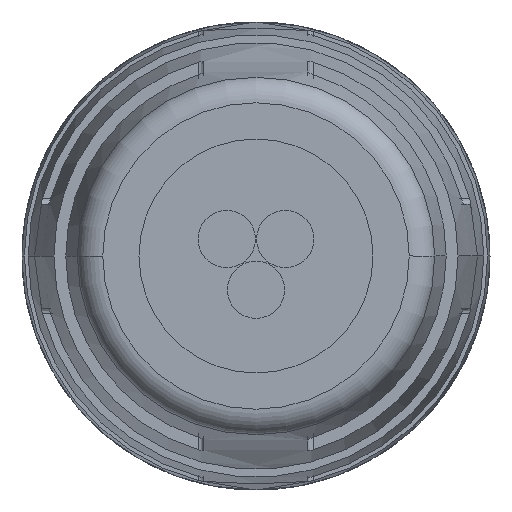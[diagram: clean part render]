
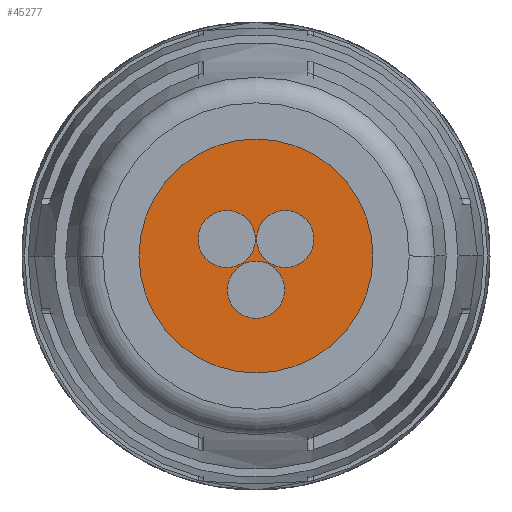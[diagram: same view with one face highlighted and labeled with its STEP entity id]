
A CAD part, left-side view. The second image highlights one B-rep face of the part: STEP entity #45277.
In plain terms, the highlighted planar face has unit normal (-1, 0, 0).
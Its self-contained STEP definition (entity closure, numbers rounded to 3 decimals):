
#14970=CARTESIAN_POINT('',(-66.6,0.,0.));
#14971=DIRECTION('',(-1.,0.,0.));
#14972=DIRECTION('',(0.,0.,1.));
#14973=AXIS2_PLACEMENT_3D('',#14970,#14971,#14972);
#14975=CARTESIAN_POINT('',(-66.6,0.,0.));
#14976=DIRECTION('',(-1.,0.,0.));
#14977=DIRECTION('',(0.,0.,-1.));
#14978=AXIS2_PLACEMENT_3D('',#14975,#14976,#14977);
#14980=CARTESIAN_POINT('',(-66.6,0.,-0.65));
#14981=DIRECTION('',(-1.,0.,0.));
#14982=DIRECTION('',(0.,1.,0.));
#14983=AXIS2_PLACEMENT_3D('',#14980,#14981,#14982);
#14985=CARTESIAN_POINT('',(-66.6,0.,-0.65));
#14986=DIRECTION('',(-1.,0.,0.));
#14987=DIRECTION('',(0.,-1.,0.));
#14988=AXIS2_PLACEMENT_3D('',#14985,#14986,#14987);
#14990=CARTESIAN_POINT('',(-66.6,0.563,0.325));
#14991=DIRECTION('',(-1.,0.,0.));
#14992=DIRECTION('',(0.,-0.5,0.866));
#14993=AXIS2_PLACEMENT_3D('',#14990,#14991,#14992);
#14995=CARTESIAN_POINT('',(-66.6,0.563,0.325));
#14996=DIRECTION('',(-1.,0.,0.));
#14997=DIRECTION('',(0.,0.5,-0.866));
#14998=AXIS2_PLACEMENT_3D('',#14995,#14996,#14997);
#15000=CARTESIAN_POINT('',(-66.6,-0.563,0.325));
#15001=DIRECTION('',(-1.,0.,0.));
#15002=DIRECTION('',(0.,-0.5,-0.866));
#15003=AXIS2_PLACEMENT_3D('',#15000,#15001,#15002);
#15005=CARTESIAN_POINT('',(-66.6,-0.563,0.325));
#15006=DIRECTION('',(-1.,0.,0.));
#15007=DIRECTION('',(0.,0.5,0.866));
#15008=AXIS2_PLACEMENT_3D('',#15005,#15006,#15007);
#19254=CARTESIAN_POINT('',(-66.6,0.,2.25));
#19255=CARTESIAN_POINT('',(-66.6,0.,-2.25));
#19256=VERTEX_POINT('',#19254);
#19257=VERTEX_POINT('',#19255);
#19262=CARTESIAN_POINT('',(-66.6,0.55,-0.65));
#19263=CARTESIAN_POINT('',(-66.6,-0.55,-0.65));
#19264=VERTEX_POINT('',#19262);
#19265=VERTEX_POINT('',#19263);
#19270=CARTESIAN_POINT('',(-66.6,0.288,0.801));
#19271=CARTESIAN_POINT('',(-66.6,0.838,-0.151));
#19272=VERTEX_POINT('',#19270);
#19273=VERTEX_POINT('',#19271);
#19278=CARTESIAN_POINT('',(-66.6,-0.838,-0.151));
#19279=CARTESIAN_POINT('',(-66.6,-0.288,0.801));
#19280=VERTEX_POINT('',#19278);
#19281=VERTEX_POINT('',#19279);
#45250=CARTESIAN_POINT('',(-66.6,0.,-9.5));
#45251=DIRECTION('',(-1.,0.,0.));
#45252=DIRECTION('',(0.,0.,1.));
#45253=AXIS2_PLACEMENT_3D('',#45250,#45251,#45252);
#45254=PLANE('',#45253);
#45255=ORIENTED_EDGE('',*,*,#45230,.F.);
#45256=ORIENTED_EDGE('',*,*,#45244,.F.);
#45257=EDGE_LOOP('',(#45255,#45256));
#45258=FACE_OUTER_BOUND('',#45257,.F.);
#45260=ORIENTED_EDGE('',*,*,#45259,.T.);
#45262=ORIENTED_EDGE('',*,*,#45261,.T.);
#45263=EDGE_LOOP('',(#45260,#45262));
#45264=FACE_BOUND('',#45263,.F.);
#45266=ORIENTED_EDGE('',*,*,#45265,.T.);
#45268=ORIENTED_EDGE('',*,*,#45267,.T.);
#45269=EDGE_LOOP('',(#45266,#45268));
#45270=FACE_BOUND('',#45269,.F.);
#45272=ORIENTED_EDGE('',*,*,#45271,.T.);
#45274=ORIENTED_EDGE('',*,*,#45273,.T.);
#45275=EDGE_LOOP('',(#45272,#45274));
#45276=FACE_BOUND('',#45275,.F.);
#45277=ADVANCED_FACE('',(#45258,#45264,#45270,#45276),#45254,.T.);
#14974=CIRCLE('',#14973,2.25);
#14979=CIRCLE('',#14978,2.25);
#14984=CIRCLE('',#14983,0.55);
#14989=CIRCLE('',#14988,0.55);
#14994=CIRCLE('',#14993,0.55);
#14999=CIRCLE('',#14998,0.55);
#15004=CIRCLE('',#15003,0.55);
#15009=CIRCLE('',#15008,0.55);
#45230=EDGE_CURVE('',#19256,#19257,#14974,.T.);
#45244=EDGE_CURVE('',#19257,#19256,#14979,.T.);
#45259=EDGE_CURVE('',#19264,#19265,#14984,.T.);
#45261=EDGE_CURVE('',#19265,#19264,#14989,.T.);
#45265=EDGE_CURVE('',#19272,#19273,#14994,.T.);
#45267=EDGE_CURVE('',#19273,#19272,#14999,.T.);
#45271=EDGE_CURVE('',#19280,#19281,#15004,.T.);
#45273=EDGE_CURVE('',#19281,#19280,#15009,.T.);
